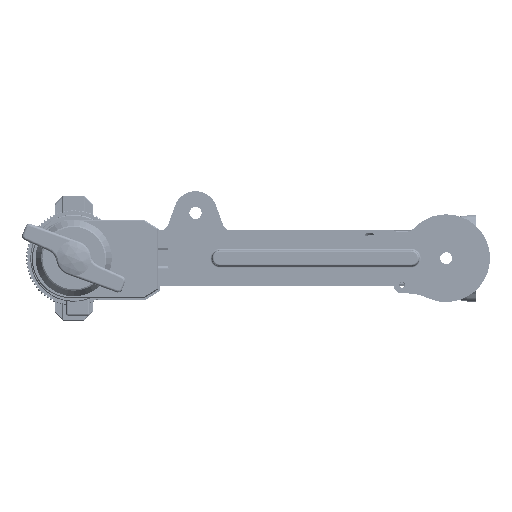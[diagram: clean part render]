
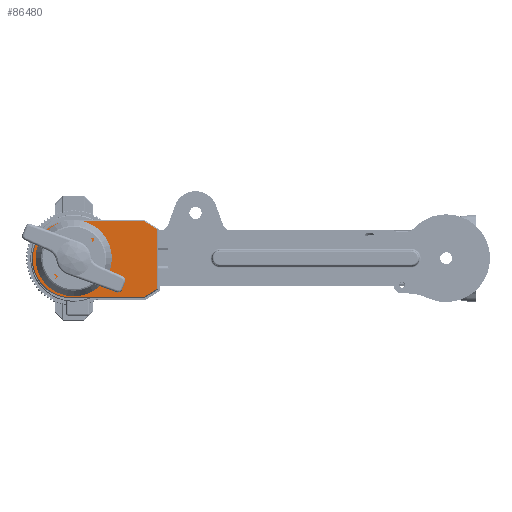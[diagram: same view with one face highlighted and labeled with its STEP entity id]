
A CAD part, left-side view. The second image highlights one B-rep face of the part: STEP entity #86480.
In plain terms, the highlighted planar face has unit normal (-1, 0, 0) as drawn and (0, 0, 1) by its records, which use the part's own axes.
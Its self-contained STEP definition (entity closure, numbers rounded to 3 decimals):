
#85761 = VERTEX_POINT('',#85762);
#85762 = CARTESIAN_POINT('',(7.5,0.,8.));
#85768 = EDGE_CURVE('',#85761,#85769,#85771,.T.);
#85769 = VERTEX_POINT('',#85770);
#85770 = CARTESIAN_POINT('',(-7.5,0.,8.));
#85771 = CIRCLE('',#85772,7.5);
#85772 = AXIS2_PLACEMENT_3D('',#85773,#85774,#85775);
#85773 = CARTESIAN_POINT('',(0.,0.,8.));
#85774 = DIRECTION('',(0.,0.,-1.));
#85775 = DIRECTION('',(1.,0.,0.));
#85803 = VERTEX_POINT('',#85804);
#85804 = CARTESIAN_POINT('',(-5.,13.,8.));
#85810 = EDGE_CURVE('',#85811,#85803,#85813,.T.);
#85811 = VERTEX_POINT('',#85812);
#85812 = CARTESIAN_POINT('',(-7.,13.,8.));
#85813 = CIRCLE('',#85814,1.);
#85814 = AXIS2_PLACEMENT_3D('',#85815,#85816,#85817);
#85815 = CARTESIAN_POINT('',(-6.,13.,8.));
#85816 = DIRECTION('',(0.,0.,1.));
#85817 = DIRECTION('',(-1.,0.,0.));
#85845 = VERTEX_POINT('',#85846);
#85846 = CARTESIAN_POINT('',(7.,13.,8.));
#85852 = EDGE_CURVE('',#85853,#85845,#85855,.T.);
#85853 = VERTEX_POINT('',#85854);
#85854 = CARTESIAN_POINT('',(5.,13.,8.));
#85855 = CIRCLE('',#85856,1.);
#85856 = AXIS2_PLACEMENT_3D('',#85857,#85858,#85859);
#85857 = CARTESIAN_POINT('',(6.,13.,8.));
#85858 = DIRECTION('',(0.,0.,1.));
#85859 = DIRECTION('',(1.,0.,-0.));
#85887 = VERTEX_POINT('',#85888);
#85888 = CARTESIAN_POINT('',(7.,-13.,8.));
#85894 = EDGE_CURVE('',#85895,#85887,#85897,.T.);
#85895 = VERTEX_POINT('',#85896);
#85896 = CARTESIAN_POINT('',(5.,-13.,8.));
#85897 = CIRCLE('',#85898,1.);
#85898 = AXIS2_PLACEMENT_3D('',#85899,#85900,#85901);
#85899 = CARTESIAN_POINT('',(6.,-13.,8.));
#85900 = DIRECTION('',(0.,0.,1.));
#85901 = DIRECTION('',(-1.,0.,0.));
#85929 = VERTEX_POINT('',#85930);
#85930 = CARTESIAN_POINT('',(-5.,-13.,8.));
#85936 = EDGE_CURVE('',#85937,#85929,#85939,.T.);
#85937 = VERTEX_POINT('',#85938);
#85938 = CARTESIAN_POINT('',(-7.,-13.,8.));
#85939 = CIRCLE('',#85940,1.);
#85940 = AXIS2_PLACEMENT_3D('',#85941,#85942,#85943);
#85941 = CARTESIAN_POINT('',(-6.,-13.,8.));
#85942 = DIRECTION('',(0.,0.,1.));
#85943 = DIRECTION('',(1.,0.,-0.));
#86085 = VERTEX_POINT('',#86086);
#86086 = CARTESIAN_POINT('',(-12.25,-10.5,8.));
#86104 = VERTEX_POINT('',#86105);
#86105 = CARTESIAN_POINT('',(-8.75,-10.5,8.));
#86111 = EDGE_CURVE('',#86104,#86085,#86112,.T.);
#86112 = CIRCLE('',#86113,1.75);
#86113 = AXIS2_PLACEMENT_3D('',#86114,#86115,#86116);
#86114 = CARTESIAN_POINT('',(-10.5,-10.5,8.));
#86115 = DIRECTION('',(0.,0.,-1.));
#86116 = DIRECTION('',(-1.,0.,0.));
#86127 = VERTEX_POINT('',#86128);
#86128 = CARTESIAN_POINT('',(8.75,10.5,8.));
#86146 = VERTEX_POINT('',#86147);
#86147 = CARTESIAN_POINT('',(12.25,10.5,8.));
#86153 = EDGE_CURVE('',#86146,#86127,#86154,.T.);
#86154 = CIRCLE('',#86155,1.75);
#86155 = AXIS2_PLACEMENT_3D('',#86156,#86157,#86158);
#86156 = CARTESIAN_POINT('',(10.5,10.5,8.));
#86157 = DIRECTION('',(0.,0.,-1.));
#86158 = DIRECTION('',(-1.,0.,0.));
#86169 = VERTEX_POINT('',#86170);
#86170 = CARTESIAN_POINT('',(8.75,-10.5,8.));
#86188 = VERTEX_POINT('',#86189);
#86189 = CARTESIAN_POINT('',(12.25,-10.5,8.));
#86195 = EDGE_CURVE('',#86188,#86169,#86196,.T.);
#86196 = CIRCLE('',#86197,1.75);
#86197 = AXIS2_PLACEMENT_3D('',#86198,#86199,#86200);
#86198 = CARTESIAN_POINT('',(10.5,-10.5,8.));
#86199 = DIRECTION('',(0.,0.,-1.));
#86200 = DIRECTION('',(-1.,0.,0.));
#86211 = VERTEX_POINT('',#86212);
#86212 = CARTESIAN_POINT('',(-12.25,10.5,8.));
#86230 = VERTEX_POINT('',#86231);
#86231 = CARTESIAN_POINT('',(-8.75,10.5,8.));
#86237 = EDGE_CURVE('',#86230,#86211,#86238,.T.);
#86238 = CIRCLE('',#86239,1.75);
#86239 = AXIS2_PLACEMENT_3D('',#86240,#86241,#86242);
#86240 = CARTESIAN_POINT('',(-10.5,10.5,8.));
#86241 = DIRECTION('',(0.,0.,-1.));
#86242 = DIRECTION('',(-1.,0.,0.));
#86396 = EDGE_CURVE('',#86211,#86230,#86397,.T.);
#86397 = CIRCLE('',#86398,1.75);
#86398 = AXIS2_PLACEMENT_3D('',#86399,#86400,#86401);
#86399 = CARTESIAN_POINT('',(-10.5,10.5,8.));
#86400 = DIRECTION('',(0.,0.,-1.));
#86401 = DIRECTION('',(-1.,0.,0.));
#86420 = EDGE_CURVE('',#86169,#86188,#86421,.T.);
#86421 = CIRCLE('',#86422,1.75);
#86422 = AXIS2_PLACEMENT_3D('',#86423,#86424,#86425);
#86423 = CARTESIAN_POINT('',(10.5,-10.5,8.));
#86424 = DIRECTION('',(0.,0.,-1.));
#86425 = DIRECTION('',(-1.,0.,0.));
#86444 = EDGE_CURVE('',#86127,#86146,#86445,.T.);
#86445 = CIRCLE('',#86446,1.75);
#86446 = AXIS2_PLACEMENT_3D('',#86447,#86448,#86449);
#86447 = CARTESIAN_POINT('',(10.5,10.5,8.));
#86448 = DIRECTION('',(0.,0.,-1.));
#86449 = DIRECTION('',(-1.,0.,0.));
#86468 = EDGE_CURVE('',#86085,#86104,#86469,.T.);
#86469 = CIRCLE('',#86470,1.75);
#86470 = AXIS2_PLACEMENT_3D('',#86471,#86472,#86473);
#86471 = CARTESIAN_POINT('',(-10.5,-10.5,8.));
#86472 = DIRECTION('',(0.,0.,-1.));
#86473 = DIRECTION('',(-1.,0.,0.));
#86480 = ADVANCED_FACE('',(#86481,#86491,#86501,#86511,#86521,#86531,
    #86582,#86586,#86590,#86594),#86598,.T.);
#86481 = FACE_BOUND('',#86482,.T.);
#86482 = EDGE_LOOP('',(#86483,#86484));
#86483 = ORIENTED_EDGE('',*,*,#85768,.T.);
#86484 = ORIENTED_EDGE('',*,*,#86485,.T.);
#86485 = EDGE_CURVE('',#85769,#85761,#86486,.T.);
#86486 = CIRCLE('',#86487,7.5);
#86487 = AXIS2_PLACEMENT_3D('',#86488,#86489,#86490);
#86488 = CARTESIAN_POINT('',(0.,0.,8.));
#86489 = DIRECTION('',(0.,0.,-1.));
#86490 = DIRECTION('',(1.,0.,0.));
#86491 = FACE_BOUND('',#86492,.T.);
#86492 = EDGE_LOOP('',(#86493,#86500));
#86493 = ORIENTED_EDGE('',*,*,#86494,.F.);
#86494 = EDGE_CURVE('',#85803,#85811,#86495,.T.);
#86495 = CIRCLE('',#86496,1.);
#86496 = AXIS2_PLACEMENT_3D('',#86497,#86498,#86499);
#86497 = CARTESIAN_POINT('',(-6.,13.,8.));
#86498 = DIRECTION('',(0.,0.,1.));
#86499 = DIRECTION('',(-1.,0.,0.));
#86500 = ORIENTED_EDGE('',*,*,#85810,.F.);
#86501 = FACE_BOUND('',#86502,.T.);
#86502 = EDGE_LOOP('',(#86503,#86510));
#86503 = ORIENTED_EDGE('',*,*,#86504,.F.);
#86504 = EDGE_CURVE('',#85845,#85853,#86505,.T.);
#86505 = CIRCLE('',#86506,1.);
#86506 = AXIS2_PLACEMENT_3D('',#86507,#86508,#86509);
#86507 = CARTESIAN_POINT('',(6.,13.,8.));
#86508 = DIRECTION('',(0.,0.,1.));
#86509 = DIRECTION('',(1.,0.,-0.));
#86510 = ORIENTED_EDGE('',*,*,#85852,.F.);
#86511 = FACE_BOUND('',#86512,.T.);
#86512 = EDGE_LOOP('',(#86513,#86520));
#86513 = ORIENTED_EDGE('',*,*,#86514,.F.);
#86514 = EDGE_CURVE('',#85887,#85895,#86515,.T.);
#86515 = CIRCLE('',#86516,1.);
#86516 = AXIS2_PLACEMENT_3D('',#86517,#86518,#86519);
#86517 = CARTESIAN_POINT('',(6.,-13.,8.));
#86518 = DIRECTION('',(0.,0.,1.));
#86519 = DIRECTION('',(-1.,0.,0.));
#86520 = ORIENTED_EDGE('',*,*,#85894,.F.);
#86521 = FACE_BOUND('',#86522,.T.);
#86522 = EDGE_LOOP('',(#86523,#86530));
#86523 = ORIENTED_EDGE('',*,*,#86524,.F.);
#86524 = EDGE_CURVE('',#85929,#85937,#86525,.T.);
#86525 = CIRCLE('',#86526,1.);
#86526 = AXIS2_PLACEMENT_3D('',#86527,#86528,#86529);
#86527 = CARTESIAN_POINT('',(-6.,-13.,8.));
#86528 = DIRECTION('',(0.,0.,1.));
#86529 = DIRECTION('',(1.,0.,-0.));
#86530 = ORIENTED_EDGE('',*,*,#85936,.F.);
#86531 = FACE_BOUND('',#86532,.T.);
#86532 = EDGE_LOOP('',(#86533,#86544,#86552,#86560,#86568,#86576));
#86533 = ORIENTED_EDGE('',*,*,#86534,.T.);
#86534 = EDGE_CURVE('',#86535,#86537,#86539,.T.);
#86535 = VERTEX_POINT('',#86536);
#86536 = CARTESIAN_POINT('',(21.923,0.,8.));
#86537 = VERTEX_POINT('',#86538);
#86538 = CARTESIAN_POINT('',(-21.923,0.,8.));
#86539 = CIRCLE('',#86540,21.923);
#86540 = AXIS2_PLACEMENT_3D('',#86541,#86542,#86543);
#86541 = CARTESIAN_POINT('',(0.,0.,8.));
#86542 = DIRECTION('',(0.,0.,1.));
#86543 = DIRECTION('',(1.,0.,-0.));
#86544 = ORIENTED_EDGE('',*,*,#86545,.T.);
#86545 = EDGE_CURVE('',#86537,#86546,#86548,.T.);
#86546 = VERTEX_POINT('',#86547);
#86547 = CARTESIAN_POINT('',(-21.923,-41.834,8.));
#86548 = LINE('',#86549,#86550);
#86549 = CARTESIAN_POINT('',(-21.923,-42.,8.));
#86550 = VECTOR('',#86551,1.);
#86551 = DIRECTION('',(0.,-1.,0.));
#86552 = ORIENTED_EDGE('',*,*,#86553,.T.);
#86553 = EDGE_CURVE('',#86546,#86554,#86556,.T.);
#86554 = VERTEX_POINT('',#86555);
#86555 = CARTESIAN_POINT('',(-17.18,-49.423,8.));
#86556 = LINE('',#86557,#86558);
#86557 = CARTESIAN_POINT('',(-34.567,-21.604,8.));
#86558 = VECTOR('',#86559,1.);
#86559 = DIRECTION('',(0.53,-0.848,0.));
#86560 = ORIENTED_EDGE('',*,*,#86561,.T.);
#86561 = EDGE_CURVE('',#86554,#86562,#86564,.T.);
#86562 = VERTEX_POINT('',#86563);
#86563 = CARTESIAN_POINT('',(17.18,-49.423,8.));
#86564 = LINE('',#86565,#86566);
#86565 = CARTESIAN_POINT('',(17.5,-49.423,8.));
#86566 = VECTOR('',#86567,1.);
#86567 = DIRECTION('',(1.,0.,0.));
#86568 = ORIENTED_EDGE('',*,*,#86569,.T.);
#86569 = EDGE_CURVE('',#86562,#86570,#86572,.T.);
#86570 = VERTEX_POINT('',#86571);
#86571 = CARTESIAN_POINT('',(21.923,-41.834,8.));
#86572 = LINE('',#86573,#86574);
#86573 = CARTESIAN_POINT('',(34.567,-21.604,8.));
#86574 = VECTOR('',#86575,1.);
#86575 = DIRECTION('',(0.53,0.848,0.));
#86576 = ORIENTED_EDGE('',*,*,#86577,.T.);
#86577 = EDGE_CURVE('',#86570,#86535,#86578,.T.);
#86578 = LINE('',#86579,#86580);
#86579 = CARTESIAN_POINT('',(21.923,0.,8.));
#86580 = VECTOR('',#86581,1.);
#86581 = DIRECTION('',(0.,1.,0.));
#86582 = FACE_BOUND('',#86583,.T.);
#86583 = EDGE_LOOP('',(#86584,#86585));
#86584 = ORIENTED_EDGE('',*,*,#86468,.T.);
#86585 = ORIENTED_EDGE('',*,*,#86111,.T.);
#86586 = FACE_BOUND('',#86587,.T.);
#86587 = EDGE_LOOP('',(#86588,#86589));
#86588 = ORIENTED_EDGE('',*,*,#86444,.T.);
#86589 = ORIENTED_EDGE('',*,*,#86153,.T.);
#86590 = FACE_BOUND('',#86591,.T.);
#86591 = EDGE_LOOP('',(#86592,#86593));
#86592 = ORIENTED_EDGE('',*,*,#86420,.T.);
#86593 = ORIENTED_EDGE('',*,*,#86195,.T.);
#86594 = FACE_BOUND('',#86595,.T.);
#86595 = EDGE_LOOP('',(#86596,#86597));
#86596 = ORIENTED_EDGE('',*,*,#86396,.T.);
#86597 = ORIENTED_EDGE('',*,*,#86237,.T.);
#86598 = PLANE('',#86599);
#86599 = AXIS2_PLACEMENT_3D('',#86600,#86601,#86602);
#86600 = CARTESIAN_POINT('',(0.,0.,8.));
#86601 = DIRECTION('',(0.,0.,1.));
#86602 = DIRECTION('',(1.,0.,-0.));
